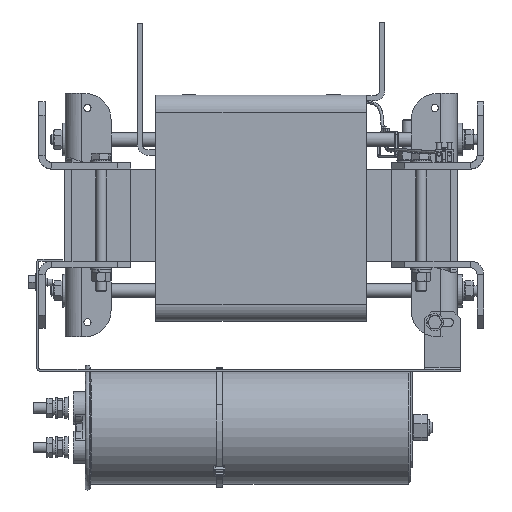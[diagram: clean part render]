
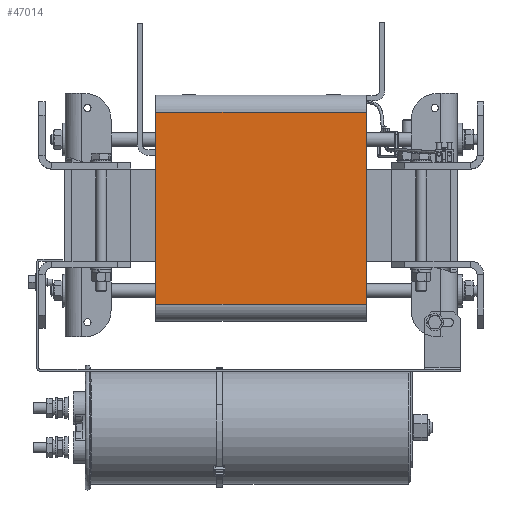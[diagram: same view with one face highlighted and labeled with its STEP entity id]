
A CAD part, left-side view. The second image highlights one B-rep face of the part: STEP entity #47014.
In plain terms, the highlighted planar face has unit normal (-1, 0, 0).
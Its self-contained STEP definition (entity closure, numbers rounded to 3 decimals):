
#2677=PLANE('',#50830);
#4769=FACE_OUTER_BOUND('',#7476,.T.);
#7476=EDGE_LOOP('',(#38633,#38634,#38635,#38636));
#11063=LINE('',#76618,#15099);
#11311=LINE('',#77320,#15347);
#11318=LINE('',#77336,#15354);
#11319=LINE('',#77338,#15355);
#15099=VECTOR('',#60479,10.);
#15347=VECTOR('',#61115,10.);
#15354=VECTOR('',#61132,10.);
#15355=VECTOR('',#61135,10.);
#21398=VERTEX_POINT('',#76615);
#21399=VERTEX_POINT('',#76617);
#21658=VERTEX_POINT('',#77317);
#21659=VERTEX_POINT('',#77319);
#27230=EDGE_CURVE('',#21398,#21399,#11063,.T.);
#27583=EDGE_CURVE('',#21658,#21659,#11311,.T.);
#27592=EDGE_CURVE('',#21659,#21398,#11318,.T.);
#27593=EDGE_CURVE('',#21658,#21399,#11319,.T.);
#38633=ORIENTED_EDGE('',*,*,#27592,.F.);
#38634=ORIENTED_EDGE('',*,*,#27583,.F.);
#38635=ORIENTED_EDGE('',*,*,#27593,.T.);
#38636=ORIENTED_EDGE('',*,*,#27230,.F.);
#47014=ADVANCED_FACE('',(#4769),#2677,.T.);
#50830=AXIS2_PLACEMENT_3D('',#77337,#61133,#61134);
#60479=DIRECTION('',(0.,0.,-1.));
#61115=DIRECTION('',(0.,0.,1.));
#61132=DIRECTION('',(0.,-1.,0.));
#61133=DIRECTION('center_axis',(-1.,0.,0.));
#61134=DIRECTION('ref_axis',(0.,0.,1.));
#61135=DIRECTION('',(0.,-1.,0.));
#76615=CARTESIAN_POINT('',(-205.022,-80.,78.268));
#76617=CARTESIAN_POINT('',(-205.022,-80.,-67.768));
#76618=CARTESIAN_POINT('',(-205.022,-80.,78.268));
#77317=CARTESIAN_POINT('',(-205.022,80.,-67.768));
#77319=CARTESIAN_POINT('',(-205.022,80.,78.268));
#77320=CARTESIAN_POINT('',(-205.022,80.,78.268));
#77336=CARTESIAN_POINT('',(-205.022,0.,78.268));
#77337=CARTESIAN_POINT('Origin',(-205.022,0.,-67.768));
#77338=CARTESIAN_POINT('',(-205.022,0.,-67.768));
